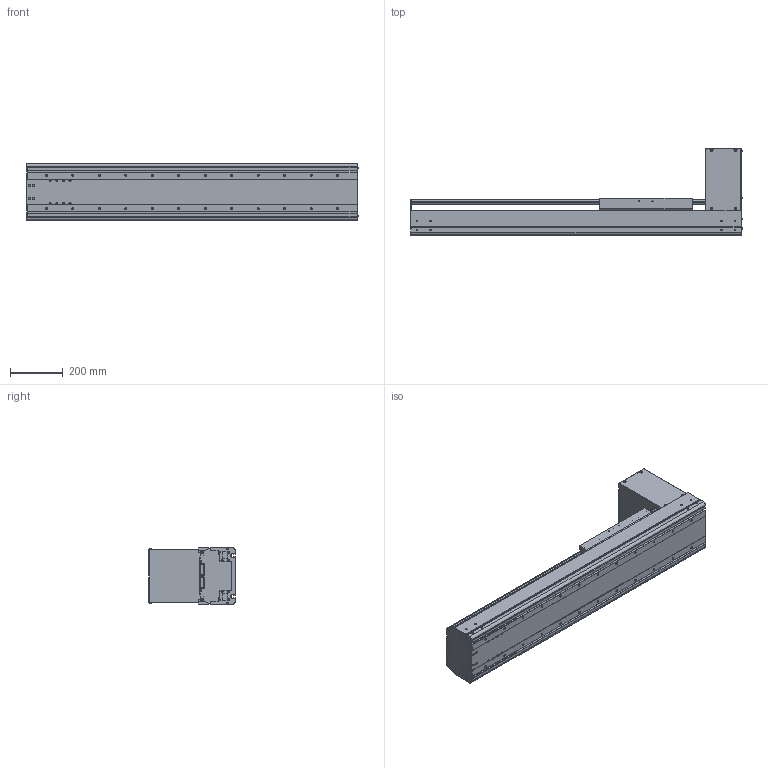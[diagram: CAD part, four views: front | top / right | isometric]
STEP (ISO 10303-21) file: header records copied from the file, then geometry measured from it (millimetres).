
FILE_DESCRIPTION((''),'2;1');
FILE_NAME('BE60J-BT-L19N-65_IGS_PRT','2017-06-18T',(' '),(''),'PRO/ENGINEER BY PARAMETRIC TECHNOLOGY CORPORATION, 2015030','PRO/ENGINEER BY PARAMETRIC TECHNOLOGY CORPORATION, 2015030','');
FILE_SCHEMA(('CONFIG_CONTROL_DESIGN'));
Products named in the file (1): BE60J-BT-L19N-65_IGS_PRT
Bounding box: 1254.4 x 327.5 x 214 mm (x, y, z)
Volume: 9241139.9 mm3; surface area: 3030276 mm2
Topology: 1 solids, 201 shells, 1960 faces, 5437 edges, 3597 vertices
Faces by surface type: cylinder 908, plane 798, cone 158, sphere 48, torus 48
Entity records: 64606 total; most frequent: CARTESIAN_POINT 14366, DIRECTION 10597, ORIENTED_EDGE 9880, EDGE_CURVE 5304, AXIS2_PLACEMENT_3D 3945, VERTEX_POINT 3586, VECTOR 2707, LINE 2707
